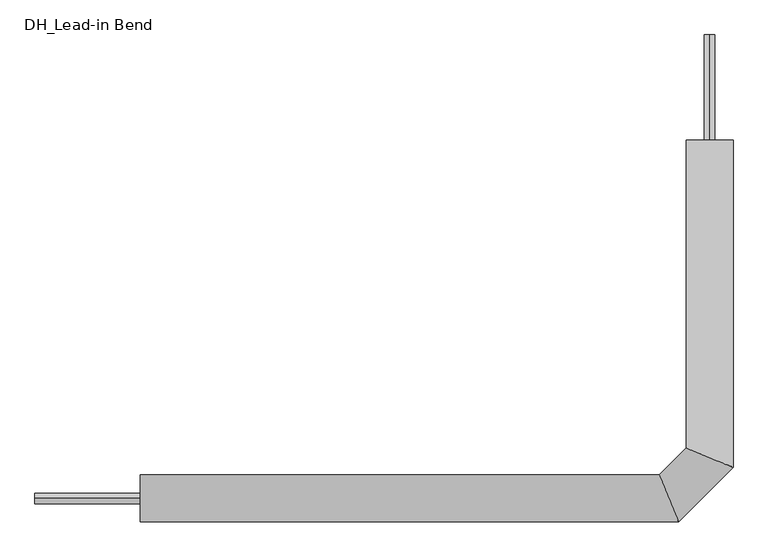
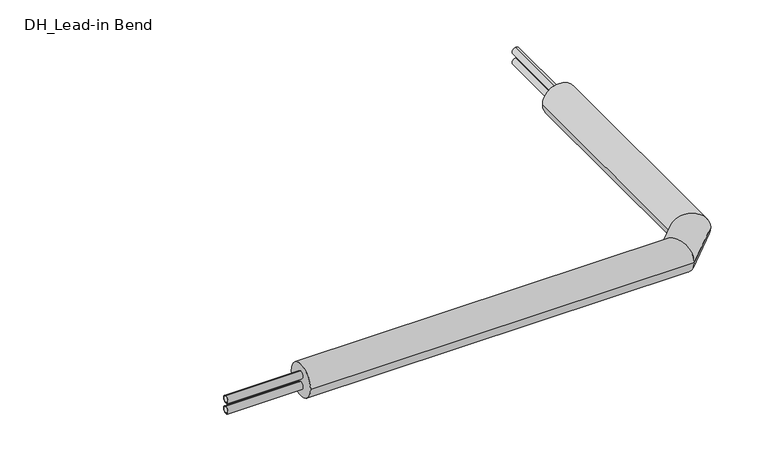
"""IFC4 building model written with IfcOpenShell, lengths in millimetres: pipe fitting geometry, DH_Lead-in Bend : RVT/RVX/RTX DUO 11 Heating Horizontal."""

import ifcopenshell
import ifcopenshell.guid

model = None  # the IFC model being written
_history = None  # IfcOwnerHistory: only IFC2X3 demands one
_inside = {}  # id of a spatial element -> (the spatial element, [elements in it])
_under = {}  # id of a project, library or spatial element -> (it, [spatial elements below it])
_declared = {}  # id of a project -> (the project, [libraries it declares])
_typed = {}  # id of a type object -> (the type object, [elements of that type])
_made_of = {}  # id of a material, layer set ... -> (it, [elements and type objects made of it])


def new_model(schema):
    """Start an empty IFC model of exactly this schema.

    Asked for "IFC4X3", IfcOpenShell would pick the latest addendum, in which some entities
    have other attributes; the version numbers below select the first issue.
    IFC2X3 requires an IfcOwnerHistory on every rooted entity: one is made here for all.
    """
    global model, _history
    if schema == "IFC4X3":
        model = ifcopenshell.file(schema_version=(4, 3, 0, 0))
    else:
        model = ifcopenshell.file(schema=schema)
    _inside.clear()
    _under.clear()
    _declared.clear()
    _typed.clear()
    _made_of.clear()
    _history = None
    if model.schema == "IFC2X3":
        org = make("IfcOrganization", Name="unknown")
        user = make(
            "IfcPersonAndOrganization",
            ThePerson=make("IfcPerson", FamilyName="unknown"),
            TheOrganization=org,
        )
        app = make(
            "IfcApplication",
            ApplicationDeveloper=org,
            Version="unknown",
            ApplicationFullName="unknown",
            ApplicationIdentifier="unknown",
        )
        _history = make(
            "IfcOwnerHistory",
            OwningUser=user,
            OwningApplication=app,
            ChangeAction="ADDED",
            CreationDate=0,
        )
    return model


def make(cls, **values):
    """One entity of the class cls with the attributes given. An attribute that is None is left unset."""
    return model.create_entity(
        cls, **{name: value for name, value in values.items() if value is not None}
    )


def rooted(cls, **values):
    """An entity with a GlobalId (a new one), such as an element, a storey or a relation."""
    return make(cls, GlobalId=ifcopenshell.guid.new(), OwnerHistory=_history, **values)


def si_unit(unit_type, name, prefix=None):
    """IfcSIUnit, for example si_unit("LENGTHUNIT", "METRE", prefix="MILLI")."""
    return make("IfcSIUnit", UnitType=unit_type, Prefix=prefix, Name=name)


def assignment(units):
    """IfcUnitAssignment: the units of a project."""
    return None if units is None else make("IfcUnitAssignment", Units=units)


def point(xyz):
    """IfcCartesianPoint."""
    return None if xyz is None else make("IfcCartesianPoint", Coordinates=xyz)


def direction(xyz):
    """IfcDirection."""
    return None if xyz is None else make("IfcDirection", DirectionRatios=xyz)


def frame(location, z_axis=None, x_axis=None):
    """IfcAxis2Placement3D, a coordinate frame: its origin and axes. An axis left out is left unset."""
    return make(
        "IfcAxis2Placement3D",
        Location=point(location),
        Axis=direction(z_axis),
        RefDirection=direction(x_axis),
    )


def frame_2d(location, x_axis=None):
    """IfcAxis2Placement2D, a coordinate frame in the plane: its origin and x axis."""
    return make(
        "IfcAxis2Placement2D", Location=point(location), RefDirection=direction(x_axis)
    )


def origin():
    """The frame at (0, 0, 0) with its axes left unset."""
    return frame((0.0, 0.0, 0.0))


def place(relative_to, where):
    """IfcLocalPlacement: puts the frame where relative to a parent placement (None: the world)."""
    return make(
        "IfcLocalPlacement", PlacementRelTo=relative_to, RelativePlacement=where
    )


def context(
    kind, dimensions, precision=None, world=None, true_north=None, identifier=None
):
    """IfcGeometricRepresentationContext, for example the 3D "Model" context."""
    return make(
        "IfcGeometricRepresentationContext",
        ContextIdentifier=identifier,
        ContextType=kind,
        CoordinateSpaceDimension=dimensions,
        Precision=precision,
        WorldCoordinateSystem=world,
        TrueNorth=true_north,
    )


def project(units=None, contexts=None):
    """IfcProject with its units and contexts."""
    return rooted(
        "IfcProject",
        Name="project",
        RepresentationContexts=contexts,
        UnitsInContext=assignment(units),
    )


def spatial(cls, under=None, at=None, **own):
    """A site, building, storey or space (cls), placed at a placement, below another one or the project."""
    s = rooted(cls, ObjectPlacement=at, **own)
    if under is not None:
        _under.setdefault(under.id(), (under, []))[1].append(s)
    return s


def circle_curve(where, radius):
    """IfcCircle in the frame where."""
    return make("IfcCircle", Position=where, Radius=radius)


def ellipse_curve(where, semi_axis1, semi_axis2):
    """IfcEllipse in the frame where."""
    return make(
        "IfcEllipse", Position=where, SemiAxis1=semi_axis1, SemiAxis2=semi_axis2
    )


def trimmed(basis, trim1, trim2, sense, master):
    """IfcTrimmedCurve: the piece of a basis curve between two trims."""
    return make(
        "IfcTrimmedCurve",
        BasisCurve=basis,
        Trim1=trim1,
        Trim2=trim2,
        SenseAgreement=sense,
        MasterRepresentation=master,
    )


def segment(curve, same_sense, transition):
    """IfcCompositeCurveSegment."""
    return make(
        "IfcCompositeCurveSegment",
        Transition=transition,
        SameSense=same_sense,
        ParentCurve=curve,
    )


def composite_curve(segments, self_intersect=None):
    """IfcCompositeCurve: segments joined end to end."""
    return make("IfcCompositeCurve", Segments=segments, SelfIntersect=self_intersect)


def outline(outer, holes=None, kind="AREA"):
    """IfcArbitraryClosedProfileDef: a profile drawn as a closed curve; with holes, ...WithVoids."""
    if holes is None:
        return make("IfcArbitraryClosedProfileDef", ProfileType=kind, OuterCurve=outer)
    return make(
        "IfcArbitraryProfileDefWithVoids",
        ProfileType=kind,
        OuterCurve=outer,
        InnerCurves=holes,
    )


def extrude(swept, where, along, depth):
    """IfcExtrudedAreaSolid: the profile swept, set in the frame where, extruded along a direction by depth."""
    return make(
        "IfcExtrudedAreaSolid",
        SweptArea=swept,
        Position=where,
        ExtrudedDirection=direction(along),
        Depth=depth,
    )


def shape(context_of_items, identifier, shape_type, items):
    """IfcShapeRepresentation: the items that make up one representation, for example the "Body"."""
    return make(
        "IfcShapeRepresentation",
        ContextOfItems=context_of_items,
        RepresentationIdentifier=identifier,
        RepresentationType=shape_type,
        Items=items,
    )


def source(mapping_origin, context_of_items, identifier, shape_type, items):
    """IfcRepresentationMap: a shape defined once, which mapped items show again and again."""
    return make(
        "IfcRepresentationMap",
        MappingOrigin=mapping_origin,
        MappedRepresentation=shape(context_of_items, identifier, shape_type, items),
    )


def transform(
    local_origin,
    x_axis=None,
    y_axis=None,
    z_axis=None,
    scale=None,
    scale2=None,
    scale3=None,
    uniform=True,
):
    """IfcCartesianTransformationOperator3D, or its non-uniform kind. x_axis, y_axis, z_axis: its Axis1, 2, 3."""
    if uniform:
        return make(
            "IfcCartesianTransformationOperator3D",
            Axis1=direction(x_axis),
            Axis2=direction(y_axis),
            LocalOrigin=point(local_origin),
            Scale=scale,
            Axis3=direction(z_axis),
        )
    return make(
        "IfcCartesianTransformationOperator3DnonUniform",
        Axis1=direction(x_axis),
        Axis2=direction(y_axis),
        LocalOrigin=point(local_origin),
        Scale=scale,
        Axis3=direction(z_axis),
        Scale2=scale2,
        Scale3=scale3,
    )


def mapped(mapping_source, mapping_target):
    """IfcMappedItem: shows the shape of a source again, moved by a transform."""
    return make(
        "IfcMappedItem", MappingSource=mapping_source, MappingTarget=mapping_target
    )


def made_of(thing, what):
    """Note that an element or type object is made of a material, layer set ...; save() writes the relation."""
    if what is not None:
        _made_of.setdefault(what.id(), (what, []))[1].append(thing)
    return thing


def element(
    cls,
    number,
    at=None,
    inside=None,
    cuts=None,
    type_object=None,
    material=None,
    context=None,
    identifier="Body",
    shape_type=None,
    held_by="IfcProductDefinitionShape",
    body=None,
    shapes=None,
    **own,
):
    """One element of the class cls, such as IfcWall. Its Tag is "e" and its number.

    at: its placement. inside: the storey or other place that contains it. cuts: it is an
    opening in that element (IfcRelVoidsElement). A single representation is given by context,
    identifier, shape_type and body (its items); several are given by shapes. held_by: the class
    of the entity that holds the representations. save() writes the other relations.
    """
    e = rooted(cls, Tag="e%d" % number, ObjectPlacement=at, **own)
    if body is not None:
        shapes = [shape(context, identifier, shape_type, body)]
    if shapes is not None:
        e.Representation = make(held_by, Representations=shapes)
    if inside is not None:
        _inside.setdefault(inside.id(), (inside, []))[1].append(e)
    if cuts is not None:
        rooted(
            "IfcRelVoidsElement", RelatingBuildingElement=cuts, RelatedOpeningElement=e
        )
    if type_object is not None:
        _typed.setdefault(type_object.id(), (type_object, []))[1].append(e)
    return made_of(e, material)


def aggregate(whole, parts):
    """IfcRelAggregates: a whole, such as a stair, and the parts it consists of."""
    return rooted("IfcRelAggregates", RelatingObject=whole, RelatedObjects=parts)


def save(model, path):
    """Write the relations noted so far, then the file.

    IfcRelAggregates (storeys below a building ...), IfcRelContainedInSpatialStructure (elements
    in a storey), IfcRelDefinesByType, IfcRelAssociatesMaterial and IfcRelDeclares: one each for
    every whole, place, type object, material and project.
    """
    for whole, parts in _under.values():
        aggregate(whole, parts)
    for where, things in _inside.values():
        rooted(
            "IfcRelContainedInSpatialStructure",
            RelatedElements=things,
            RelatingStructure=where,
        )
    for kind, things in _typed.values():
        rooted("IfcRelDefinesByType", RelatedObjects=things, RelatingType=kind)
    for what, things in _made_of.values():
        rooted("IfcRelAssociatesMaterial", RelatedObjects=things, RelatingMaterial=what)
    for by, libraries in _declared.values():
        rooted("IfcRelDeclares", RelatingContext=by, RelatedDefinitions=libraries)
    model.write(path)


def plane_surface(at):
    """IfcPlane: the flat surface through the origin of the frame at, square to its z axis."""
    return make("IfcPlane", Position=at)


def cylinder_surface(at, radius):
    """IfcCylindricalSurface: all points at the distance radius from the z axis of the frame at."""
    return make("IfcCylindricalSurface", Position=at, Radius=radius)


def advanced_brep(points, edges, surfaces, faces):
    """IfcAdvancedBrep: a solid bounded by faces that lie on surfaces and meet in shared edges.

    An edge is (start, end): straight between two places in points (the first is 0);
    or (start, end, curve); or (start, end, curve, False) where it runs against its curve.
    A face is (place in surfaces, loops), or (place, loops, False) where it looks against
    its surface's normal. A loop lists edges by number (the first is 1), with a minus sign
    where the edge is run from its end to its start. The first loop is the outer one.
    """
    corners = [point(p) for p in points]
    vertices = [make("IfcVertexPoint", VertexGeometry=c) for c in corners]
    made = []
    for start, end, *more in edges:
        made.append(
            make(
                "IfcEdgeCurve",
                EdgeStart=vertices[start],
                EdgeEnd=vertices[end],
                EdgeGeometry=more[0] if more else make("IfcPolyline", Points=[corners[start], corners[end]]),
                SameSense=more[1] if len(more) > 1 else True,
            )
        )
    hull = []
    for where, loops, *sense in faces:
        bounds = []
        for j, loop in enumerate(loops):
            ring = [make("IfcOrientedEdge", EdgeElement=made[abs(k) - 1], Orientation=k > 0) for k in loop]
            bounds.append(
                make(
                    "IfcFaceOuterBound" if j == 0 else "IfcFaceBound",
                    Bound=make("IfcEdgeLoop", EdgeList=ring),
                    Orientation=True,
                )
            )
        hull.append(make("IfcAdvancedFace", Bounds=bounds, FaceSurface=surfaces[where], SameSense=sense[0] if sense else True))
    return make("IfcAdvancedBrep", Outer=make("IfcClosedShell", CfsFaces=hull))


def dh_lead_in_bend_0489eec1(model_context):
    return source(origin(), model_context, "Body", "SolidModel", [
        extrude(outline(composite_curve([segment(trimmed(circle_curve(frame_2d((0.0, -18.5)), 12.5), [point((0.0, -6.0))], [point((0.0, -31.0))], False, "CARTESIAN"), True, "CONTINUOUS"), segment(trimmed(circle_curve(frame_2d((0.0, -18.5)), 12.5), [point((0.0, -31.0))], [point((0.0, -6.0))], False, "CARTESIAN"), True, "CONTINUOUS")], self_intersect=False), holes=[composite_curve([segment(trimmed(circle_curve(frame_2d((0.0, -18.5)), 10.2), [point((0.0, -8.3))], [point((0.0, -28.7))], True, "CARTESIAN"), True, "CONTINUOUS"), segment(trimmed(circle_curve(frame_2d((0.0, -18.5)), 10.2), [point((0.0, -28.7))], [point((0.0, -8.3))], True, "CARTESIAN"), True, "CONTINUOUS")], self_intersect=False)]), frame((-1600.0, 0.0, 0.0), z_axis=(1.0, 0.0, 0.0), x_axis=(0.0, 1.0, 0.0)), (0.0, 0.0, 1.0), 250.0),
        advanced_brep(
        [(-1350.0, -55.5, 0.0), (-1350.0, 55.5, 0.0), (-73.5111473, -55.5, 0.0), (-119.4888527, 55.5, 0.0), (55.5, 850.0, 0.0), (-55.5, 850.0, 0.0), (-55.5, 119.4888527, 0.0), (55.5, 73.5111473, 0.0)],
        [
            (0, 1, circle_curve(frame((-1350.0, 0.0, 0.0), z_axis=(-1.0, 0.0, 0.0), x_axis=(0.0, 1.0, 0.0)), 55.5)),
            (1, 0, circle_curve(frame((-1350.0, 0.0, 0.0), z_axis=(-1.0, 0.0, 0.0), x_axis=(0.0, 1.0, 0.0)), 55.5)),
            (0, 2),
            (2, 3, ellipse_curve(frame((-96.5, 0.0, 0.0), z_axis=(-0.9238795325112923, -0.38268343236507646, 0.0), x_axis=(-0.38268343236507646, 0.9238795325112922, 0.0)), 60.0727671, 55.5)),
            (3, 1),
            (3, 2, ellipse_curve(frame((-96.5, 0.0, 0.0), z_axis=(-0.9238795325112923, -0.38268343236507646, 0.0), x_axis=(-0.38268343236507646, 0.9238795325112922, 0.0)), 60.0727671, 55.5)),
            (4, 5, circle_curve(frame((0.0, 850.0, 0.0), z_axis=(0.0, 1.0, 0.0), x_axis=(-1.0, 0.0, 0.0)), 55.5)),
            (5, 4, circle_curve(frame((0.0, 850.0, 0.0), z_axis=(0.0, 1.0, 0.0), x_axis=(-1.0, 0.0, 0.0)), 55.5)),
            (6, 7, ellipse_curve(frame((0.0, 96.5, 0.0), z_axis=(0.3826834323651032, 0.9238795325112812, 0.0), x_axis=(0.9238795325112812, -0.3826834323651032, 0.0)), 60.0727671, 55.5)),
            (7, 4),
            (5, 6),
            (7, 6, ellipse_curve(frame((0.0, 96.5, 0.0), z_axis=(0.3826834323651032, 0.9238795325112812, 0.0), x_axis=(0.9238795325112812, -0.3826834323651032, 0.0)), 60.0727671, 55.5)),
            (2, 7),
            (6, 3),
        ],
        [
            plane_surface(frame((-1350.0, 0.0, 0.0), z_axis=(-1.0, 0.0, 0.0), x_axis=(0.0, 0.0, 1.0))),
            cylinder_surface(frame((-1350.0, 0.0, 0.0), z_axis=(-1.0, 0.0, 0.0), x_axis=(0.0, 1.0, 0.0)), 55.5),
            plane_surface(frame((0.0, 850.0, 0.0), z_axis=(0.0, 1.0, 0.0), x_axis=(0.0, 0.0, 1.0))),
            cylinder_surface(frame((0.0, 96.5, 0.0), z_axis=(0.0, -1.0, 0.0), x_axis=(-1.0, 0.0, 0.0)), 55.5),
            cylinder_surface(frame((-96.5, 0.0, 0.0), z_axis=(-0.707106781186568, -0.7071067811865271, 0.0), x_axis=(-0.7071067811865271, 0.707106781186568, 0.0)), 55.5),
        ],
        [
            (0, [[1, 2]]),
            (1, [[-1, 3, 4, 5]]),
            (1, [[-2, -5, 6, -3]]),
            (2, [[7, 8]]),
            (3, [[9, 10, -8, 11]]),
            (3, [[12, -11, -7, -10]]),
            (4, [[-4, 13, -9, 14]]),
            (4, [[-6, -14, -12, -13]]),
        ],
    ),
        extrude(outline(composite_curve([segment(trimmed(circle_curve(frame_2d((18.5, 0.0)), 12.5), [point((6.0, 0.0))], [point((31.0, 0.0))], False, "CARTESIAN"), True, "CONTINUOUS"), segment(trimmed(circle_curve(frame_2d((18.5, 0.0)), 12.5), [point((31.0, 0.0))], [point((6.0, 0.0))], False, "CARTESIAN"), True, "CONTINUOUS")], self_intersect=False), holes=[composite_curve([segment(trimmed(circle_curve(frame_2d((18.5, 0.0)), 10.2), [point((8.3, 0.0))], [point((28.7, 0.0))], True, "CARTESIAN"), True, "CONTINUOUS"), segment(trimmed(circle_curve(frame_2d((18.5, 0.0)), 10.2), [point((28.7, 0.0))], [point((8.3, 0.0))], True, "CARTESIAN"), True, "CONTINUOUS")], self_intersect=False)]), frame((0.0, 850.0, 0.0), z_axis=(0.0, 1.0, 0.0), x_axis=(0.0, 0.0, 1.0)), (0.0, 0.0, 1.0), 250.0),
        extrude(outline(composite_curve([segment(trimmed(circle_curve(frame_2d((0.0, 18.5)), 12.5), [point((0.0, 6.0))], [point((0.0, 31.0))], False, "CARTESIAN"), True, "CONTINUOUS"), segment(trimmed(circle_curve(frame_2d((0.0, 18.5)), 12.5), [point((0.0, 31.0))], [point((0.0, 6.0))], False, "CARTESIAN"), True, "CONTINUOUS")], self_intersect=False), holes=[composite_curve([segment(trimmed(circle_curve(frame_2d((0.0, 18.5)), 10.2), [point((0.0, 8.3))], [point((0.0, 28.7))], True, "CARTESIAN"), True, "CONTINUOUS"), segment(trimmed(circle_curve(frame_2d((0.0, 18.5)), 10.2), [point((0.0, 28.7))], [point((0.0, 8.3))], True, "CARTESIAN"), True, "CONTINUOUS")], self_intersect=False)]), frame((-1600.0, 0.0, 0.0), z_axis=(1.0, 0.0, 0.0), x_axis=(0.0, 1.0, 0.0)), (0.0, 0.0, 1.0), 250.0),
        extrude(outline(composite_curve([segment(trimmed(circle_curve(frame_2d((-18.5, 0.0)), 12.5), [point((-6.0, 0.0))], [point((-31.0, 0.0))], False, "CARTESIAN"), True, "CONTINUOUS"), segment(trimmed(circle_curve(frame_2d((-18.5, 0.0)), 12.5), [point((-31.0, 0.0))], [point((-6.0, 0.0))], False, "CARTESIAN"), True, "CONTINUOUS")], self_intersect=False), holes=[composite_curve([segment(trimmed(circle_curve(frame_2d((-18.5, 0.0)), 10.2), [point((-8.3, 0.0))], [point((-28.7, 0.0))], True, "CARTESIAN"), True, "CONTINUOUS"), segment(trimmed(circle_curve(frame_2d((-18.5, 0.0)), 10.2), [point((-28.7, 0.0))], [point((-8.3, 0.0))], True, "CARTESIAN"), True, "CONTINUOUS")], self_intersect=False)]), frame((0.0, 850.0, 0.0), z_axis=(0.0, 1.0, 0.0), x_axis=(0.0, 0.0, 1.0)), (0.0, 0.0, 1.0), 250.0),
    ])


if __name__ == "__main__":
    model = new_model("IFC4")
    model_context = context("Model", 3, world=origin())
    ifc_project = project(units=[si_unit("LENGTHUNIT", "METRE", prefix="MILLI")], contexts=[model_context])
    site = spatial("IfcSite", under=ifc_project)
    building = spatial("IfcBuilding", under=site)
    placement = place(None, origin())
    dh_lead_in_bend_shape = dh_lead_in_bend_0489eec1(model_context)
    element("IfcPipeFitting", 1, ObjectType="DH_Lead-in Bend : RVT/RVX/RTX DUO 11 Heating Horizontal", at=placement, inside=building, context=model_context, shape_type="MappedRepresentation", body=[
        mapped(dh_lead_in_bend_shape, transform((0.0, 0.0, 0.0), x_axis=(1.0, 0.0, 0.0), y_axis=(0.0, 1.0, 0.0), z_axis=(0.0, 0.0, 1.0))),
    ])
    save(model, "model.ifc")
